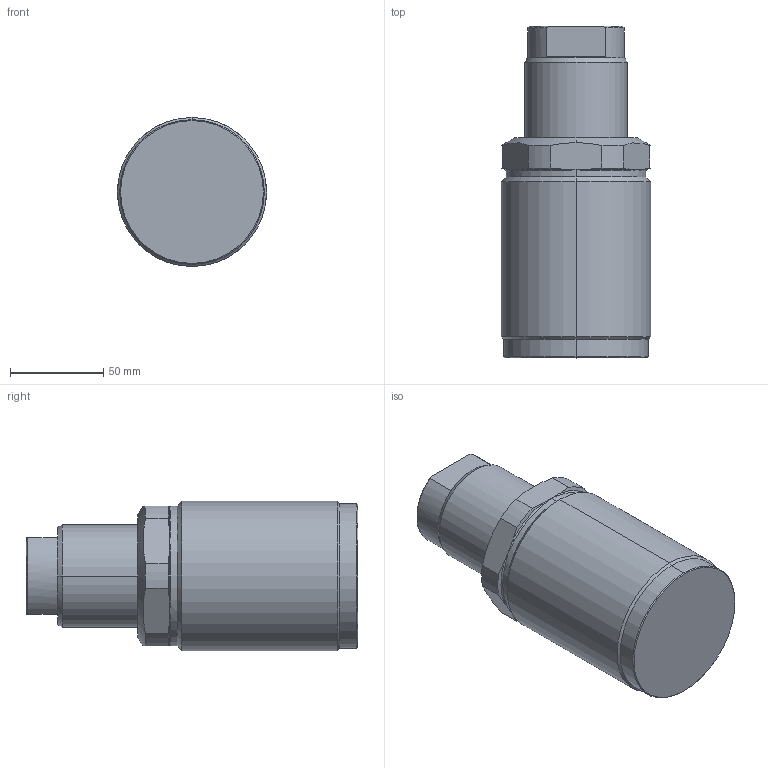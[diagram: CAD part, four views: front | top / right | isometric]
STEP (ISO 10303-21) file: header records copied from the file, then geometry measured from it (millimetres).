
FILE_DESCRIPTION((' '),'2;1');
FILE_NAME( 'TGM60-40.x_t.stp', '2024-08-27T13:43:54', (' '), ('--- Datakit www.datakit.com---'), ' Datakit CrossCadWare V2024.1 Dec 21 2023', 'Mastercam 2025', ' ');
FILE_SCHEMA(('AUTOMOTIVE_DESIGN { 1 0 10303 214 1 1 1 1 }'));
Length unit declared in the file: millimetre
Products named in the file (1): TGM60-40
Bounding box: 80 x 178 x 80 mm (x, y, z)
Volume: 608744.6 mm3; surface area: 62297.9 mm2
Topology: 2 solids, 2 shells, 81 faces, 200 edges, 113 vertices
Faces by surface type: cylinder 24, cone 22, plane 17, bspline 12, torus 6
Entity records: 4237 total; most frequent: CARTESIAN_POINT 2461, ORIENTED_EDGE 372, DIRECTION 350, EDGE_CURVE 186, AXIS2_PLACEMENT_3D 150, VERTEX_POINT 113, EDGE_LOOP 85, FACE_OUTER_BOUND 81
